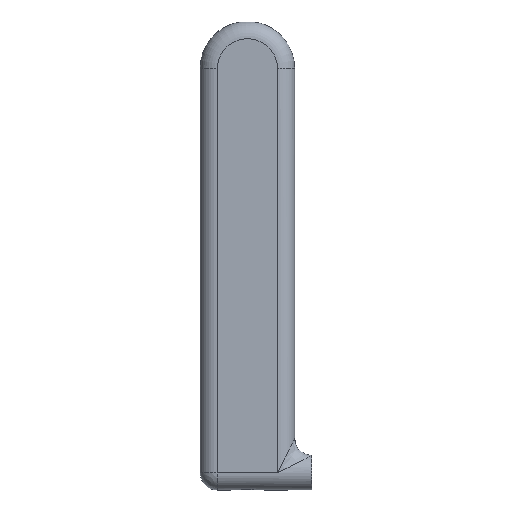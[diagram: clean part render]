
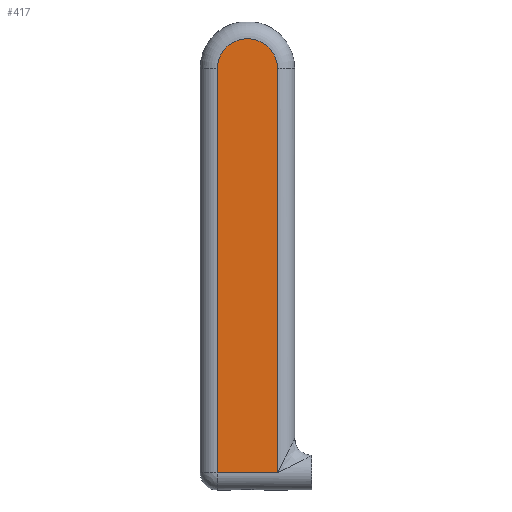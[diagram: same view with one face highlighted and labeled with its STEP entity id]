
A CAD part, front view. The second image highlights one B-rep face of the part: STEP entity #417.
In plain terms, the highlighted planar face has unit normal (0, -1, 0).
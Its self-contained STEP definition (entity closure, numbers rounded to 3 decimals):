
#30=PLANE('',#484);
#57=FACE_OUTER_BOUND('',#82,.T.);
#82=EDGE_LOOP('',(#378,#379,#380,#381));
#97=LINE('',#864,#120);
#104=LINE('',#892,#127);
#105=LINE('',#895,#128);
#120=VECTOR('',#561,94.);
#127=VECTOR('',#600,94.);
#128=VECTOR('',#605,14.);
#154=CIRCLE('',#481,7.);
#192=VERTEX_POINT('',#857);
#193=VERTEX_POINT('',#862);
#197=VERTEX_POINT('',#881);
#198=VERTEX_POINT('',#891);
#241=EDGE_CURVE('',#193,#192,#97,.T.);
#256=EDGE_CURVE('',#197,#198,#104,.T.);
#258=EDGE_CURVE('',#192,#197,#105,.T.);
#259=EDGE_CURVE('',#198,#193,#154,.T.);
#378=ORIENTED_EDGE('',*,*,#241,.F.);
#379=ORIENTED_EDGE('',*,*,#259,.F.);
#380=ORIENTED_EDGE('',*,*,#256,.F.);
#381=ORIENTED_EDGE('',*,*,#258,.F.);
#417=ADVANCED_FACE('',(#57),#30,.F.);
#481=AXIS2_PLACEMENT_3D('',#897,#608,#609);
#484=AXIS2_PLACEMENT_3D('',#900,#614,#615);
#561=DIRECTION('',(0.,0.,-1.));
#600=DIRECTION('',(0.,0.,1.));
#605=DIRECTION('',(-1.,0.,0.));
#608=DIRECTION('center_axis',(0.,1.,0.));
#609=DIRECTION('ref_axis',(0.,0.,1.));
#614=DIRECTION('center_axis',(0.,1.,0.));
#615=DIRECTION('ref_axis',(0.,0.,1.));
#857=CARTESIAN_POINT('',(7.,-11.,5.));
#862=CARTESIAN_POINT('',(7.,-11.,99.));
#864=CARTESIAN_POINT('',(7.,-11.,99.));
#881=CARTESIAN_POINT('',(-7.,-11.,5.));
#891=CARTESIAN_POINT('',(-7.,-11.,99.));
#892=CARTESIAN_POINT('',(-7.,-11.,5.));
#895=CARTESIAN_POINT('',(7.,-11.,5.));
#897=CARTESIAN_POINT('Origin',(0.,-11.,99.));
#900=CARTESIAN_POINT('Origin',(0.,-11.,99.));
